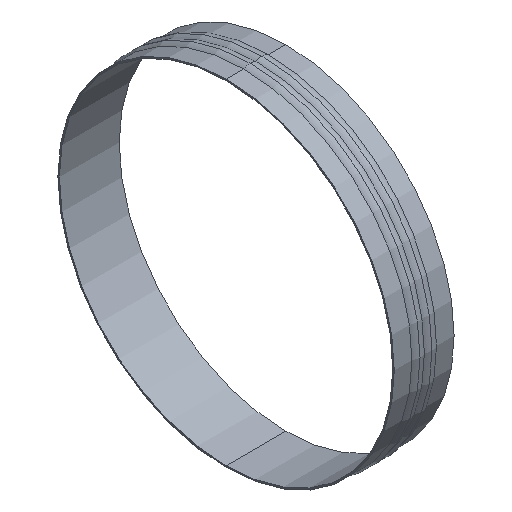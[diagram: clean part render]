
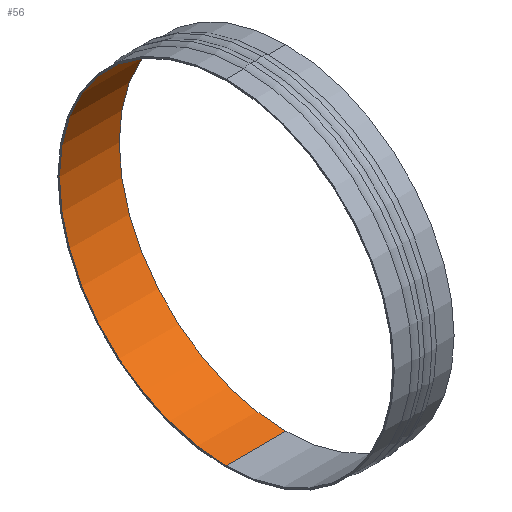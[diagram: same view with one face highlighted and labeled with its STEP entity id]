
A CAD part, isometric view. The second image highlights one B-rep face of the part: STEP entity #56.
In plain terms, the highlighted cylindrical face has radius 446 mm (diameter 892 mm), a partial arc.
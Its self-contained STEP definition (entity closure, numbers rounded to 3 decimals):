
#56=ADVANCED_FACE('',(#113),#114,.F.);
#113=FACE_OUTER_BOUND('',#170,.T.);
#114=CYLINDRICAL_SURFACE('',#171,446.0);
#170=EDGE_LOOP('',(#261,#262,#263,#264));
#171=AXIS2_PLACEMENT_3D('',#265,#266,#267);
#261=ORIENTED_EDGE('',*,*,#356,.F.);
#262=ORIENTED_EDGE('',*,*,#357,.F.);
#263=ORIENTED_EDGE('',*,*,#358,.F.);
#264=ORIENTED_EDGE('',*,*,#359,.F.);
#265=CARTESIAN_POINT('',(0.0,0.0,0.0));
#266=DIRECTION('',(1.0,0.0,0.0));
#267=DIRECTION('',(0.0,0.0,-1.0));
#356=EDGE_CURVE('',#418,#419,#420,.T.);
#357=EDGE_CURVE('',#421,#418,#422,.T.);
#358=EDGE_CURVE('',#423,#421,#424,.T.);
#359=EDGE_CURVE('',#419,#423,#425,.T.);
#418=VERTEX_POINT('',#488);
#419=VERTEX_POINT('',#489);
#420=LINE('',#490,#491);
#421=VERTEX_POINT('',#492);
#422=CIRCLE('',#493,446.0);
#423=VERTEX_POINT('',#494);
#424=LINE('',#495,#496);
#425=CIRCLE('',#497,446.0);
#488=CARTESIAN_POINT('',(80.0,0.,-446.0));
#489=CARTESIAN_POINT('',(-80.0,0.,-446.0));
#490=CARTESIAN_POINT('',(0.0,0.,-446.0));
#491=VECTOR('',#571,1.0);
#492=CARTESIAN_POINT('',(80.0,0.,446.0));
#493=AXIS2_PLACEMENT_3D('',#572,#573,#574);
#494=CARTESIAN_POINT('',(-80.0,0.,446.0));
#495=CARTESIAN_POINT('',(0.0,0.,446.0));
#496=VECTOR('',#575,1.0);
#497=AXIS2_PLACEMENT_3D('',#576,#577,#578);
#571=DIRECTION('',(-1.0,0.0,0.0));
#572=CARTESIAN_POINT('',(80.0,0.0,0.0));
#573=DIRECTION('',(-1.0,-0.0,-0.0));
#574=DIRECTION('',(0.0,0.0,-1.0));
#575=DIRECTION('',(1.0,0.0,0.0));
#576=CARTESIAN_POINT('',(-80.0,0.0,0.0));
#577=DIRECTION('',(1.0,0.0,0.0));
#578=DIRECTION('',(0.0,0.0,-1.0));
